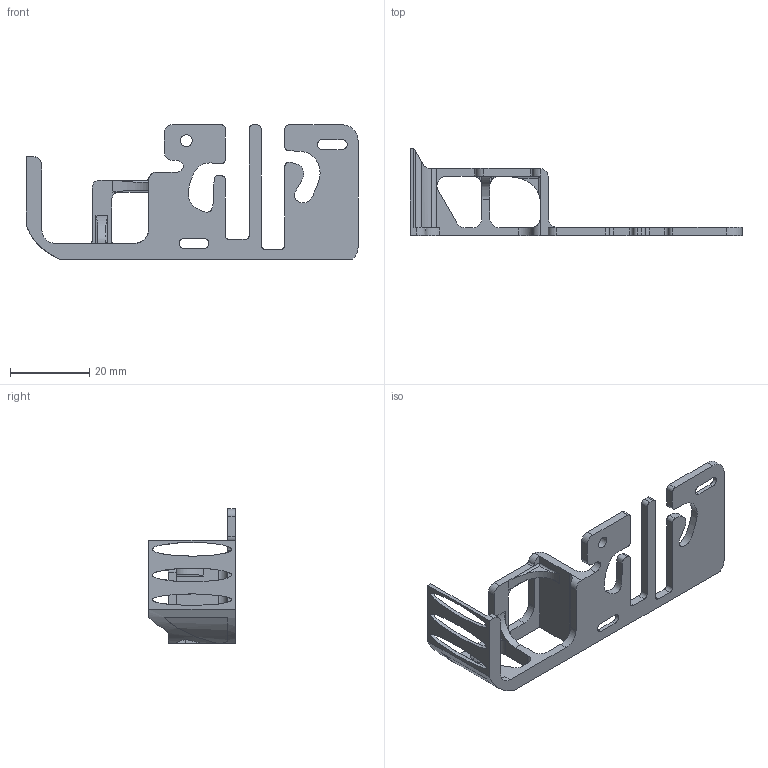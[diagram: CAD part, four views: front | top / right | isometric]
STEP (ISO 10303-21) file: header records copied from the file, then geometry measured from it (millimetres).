
FILE_DESCRIPTION(/* description */ ('STEP AP242','CAx-IF Rec.Pracs.---Representation and Presentation of Product Manufacturing Information (PMI)---4.0---2014-10-13','CAx-IF Rec.Pracs.---3D Tessellated Geometry---0.4---2014-09-14','2;1'),/* implementation_level */ '2;1');
FILE_NAME(/* name */ '686616d5e4c0e659911524d9',/* time_stamp */ '2025-07-03T05:36:22Z',/* author */ (''),/* organization */ (''),/* preprocessor_version */ 'ST-DEVELOPER v20',/* originating_system */ 'ONSHAPE BY PTC INC, 1.200',/* authorisation */ ' ');
FILE_SCHEMA (('AP242_MANAGED_MODEL_BASED_3D_ENGINEERING_MIM_LF { 1 0 10303 442 1 1 4 }'));
Length unit declared in the file: metre
Products named in the file (1): Part 1
Bounding box: 84 x 22 x 34 mm (x, y, z)
Volume: 4666.7 mm3; surface area: 6207.8 mm2
Topology: 1 solids, 1 shells, 135 faces, 404 edges, 265 vertices
Faces by surface type: plane 64, cylinder 64, bspline 7
Full cylindrical faces by diameter (mm): 3 x1
Entity records: 4868 total; most frequent: CARTESIAN_POINT 1169, ORIENTED_EDGE 794, DIRECTION 753, EDGE_CURVE 397, VERTEX_POINT 262, AXIS2_PLACEMENT_3D 255, LINE 243, VECTOR 243
